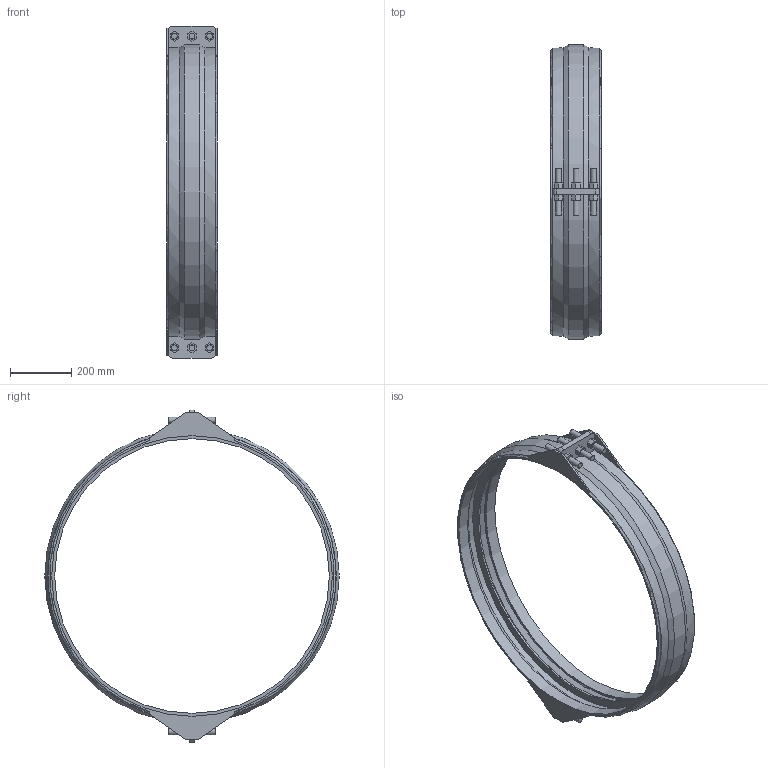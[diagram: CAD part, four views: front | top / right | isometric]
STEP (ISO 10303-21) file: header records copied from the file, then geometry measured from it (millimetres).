
FILE_DESCRIPTION(/* description */ ('VIC SS RESTRAINED COUPLING STYLE 234S (FLEX) (BRS)','CAx-IF Rec.Pracs.---Representation and Presentation of Product Manufacturing Information (PMI)---4.0---2014-10-13'),/* implementation_level */ '2;1');
FILE_NAME(/* name */ 'C:\Users\kkamble\AppData\Roaming\Autodesk\ApplicationPlugins\Back Up\Victaulic_VBSP_Coupling Flexible Restrained_Style 234S (BRS)\Victaulic_VBSP_Coupling Flexible Restrained_Style 234S (BRS)_100psi_36 (900).stp',/* time_stamp */ '2020-09-22T18:41:41+05:00',/* author */ ('Vjadhav'),/* organization */ ('Victaulic'),/* preprocessor_version */ 'ST-DEVELOPER v17.2',/* originating_system */ 'Autodesk Inventor 2019',/* authorisation */ '');
FILE_SCHEMA (('AP242_MANAGED_MODEL_BASED_3D_ENGINEERING_MIM_LF { 1 0 10303 442 1 1 4 }'));
Length unit declared in the file: inch
Products named in the file (1): Style_234S_Type_2_100psi-36.0
Bounding box: 165.1 x 959.35 x 1082.04 mm (x, y, z)
Volume: 5964098.8 mm3; surface area: 1414801.8 mm2
Topology: 1 solids, 1 shells, 187 faces, 473 edges, 316 vertices
Faces by surface type: plane 132, cylinder 43, torus 6, cone 6
Full cylindrical faces by diameter (mm): 19.05 x12, 895.35 x1, 914.4 x2, 946.653 x2
Entity records: 6074 total; most frequent: CARTESIAN_POINT 1146, DIRECTION 977, ORIENTED_EDGE 946, EDGE_CURVE 473, LINE 339, VECTOR 339, AXIS2_PLACEMENT_3D 319, VERTEX_POINT 316
